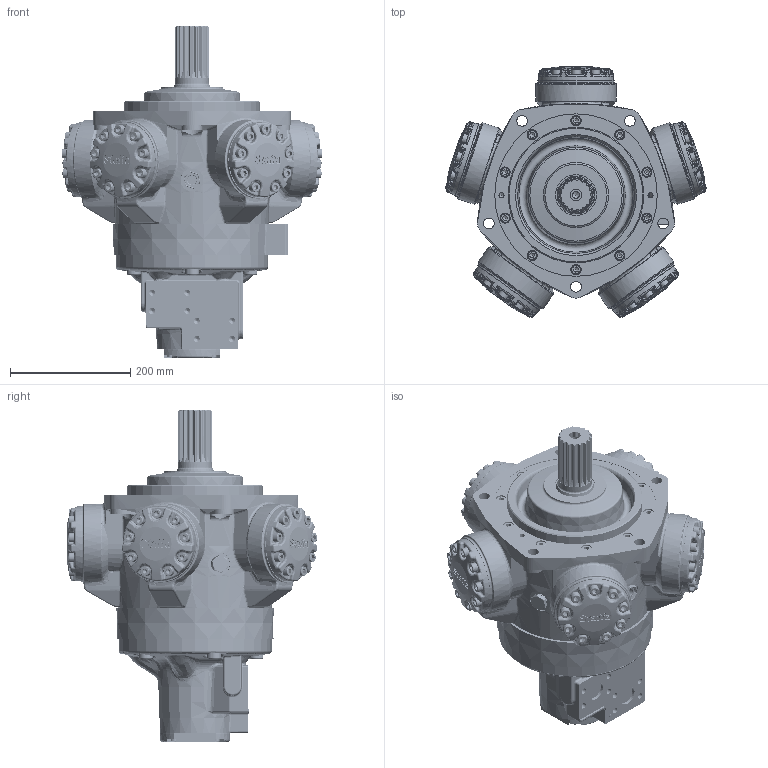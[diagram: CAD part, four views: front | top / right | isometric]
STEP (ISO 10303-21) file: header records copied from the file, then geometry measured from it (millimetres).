
FILE_DESCRIPTION(/* description */ (''),/* implementation_level */ '2;1');
FILE_NAME(/* name */ 'HMC045_Z_FM3_X.stp',/* time_stamp */ '2025-02-27T17:01:15Z',/* author */ ('ccallanga'),/* organization */ (''),/* preprocessor_version */ 'ST-DEVELOPER v20',/* originating_system */ 'Autodesk Inventor 2024',/* authorisation */ '');
FILE_SCHEMA (('AUTOMOTIVE_DESIGN { 1 0 10303 214 3 1 1 }'));
Products named in the file (1): HMC045 WEBSITE ASSEMBLY_Simplify_1
Bounding box: 433.5 x 415.89 x 551.71 mm (x, y, z)
Volume: 24088664 mm3; surface area: 776523.8 mm2
Topology: 1 solids, 1 shells, 5047 faces, 12010 edges, 6998 vertices
Faces by surface type: bspline 1730, plane 1229, cylinder 1149, torus 565, sphere 224, cone 150
Full cylindrical faces by diameter (mm): 8.376 x4, 10.109 x8, 11.328 x1, 11.445 x2, 11.913 x4, 12.7 x4, 16 x55, 16.5 x45, 16.51 x1, 17 x10, 18 x5, 23.825 x5, 25.4 x5, 26.92 x2, 31.75 x2, 38.1 x3, 56.388 x1, 67.564 x1, 68.58 x1, 103.124 x1, 127 x5, 225.36 x1, 254 x1, 269.913 x1
Entity records: 215949 total; most frequent: CARTESIAN_POINT 107342, ORIENTED_EDGE 23608, DIRECTION 18223, EDGE_CURVE 11804, AXIS2_PLACEMENT_3D 7315, VERTEX_POINT 6998, EDGE_LOOP 5296, STYLED_ITEM 5048
